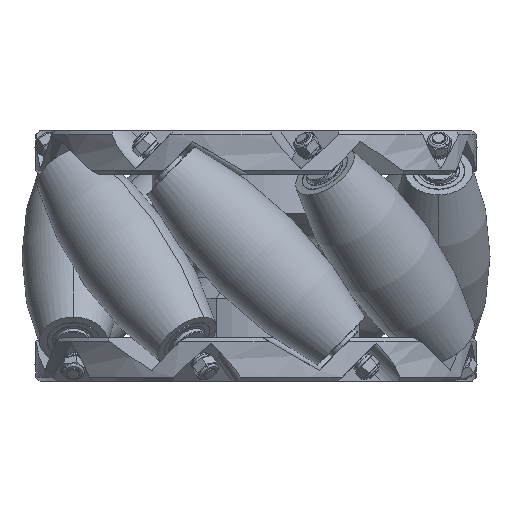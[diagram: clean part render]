
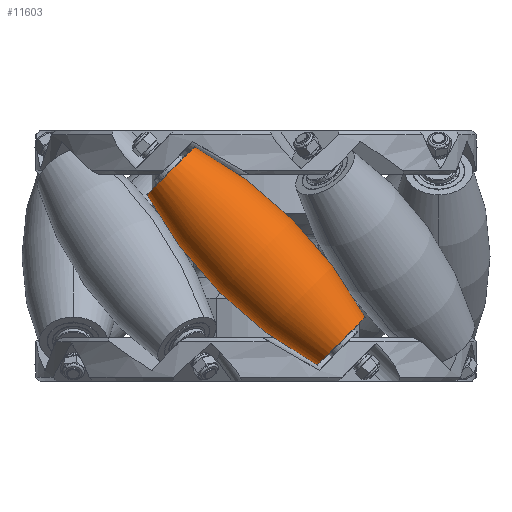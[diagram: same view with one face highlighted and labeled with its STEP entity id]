
A CAD part, front view. The second image highlights one B-rep face of the part: STEP entity #11603.
In plain terms, the highlighted toroidal (fillet/blend) face has major radius 282.974 mm and minor radius 322 mm.
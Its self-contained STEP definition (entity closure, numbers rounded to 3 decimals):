
#639 = EDGE_CURVE ( 'NONE', #2451, #6268, #7380, .T. ) ;
#796 = DIRECTION ( 'NONE',  ( -0.707, 0., 0.707 ) ) ;
#952 = FACE_OUTER_BOUND ( 'NONE', #15302, .T. ) ;
#1302 = TOROIDAL_SURFACE ( 'NONE', #10588, -282.974, 322. ) ;
#1392 = CIRCLE ( 'NONE', #13790, 322. ) ;
#2190 = DIRECTION ( 'NONE',  ( 0., -1., 0. ) ) ;
#2451 = VERTEX_POINT ( 'NONE', #15776 ) ;
#2942 = DIRECTION ( 'NONE',  ( -0.707, 0., -0.707 ) ) ;
#3290 = EDGE_CURVE ( 'NONE', #5763, #2451, #15752, .T. ) ;
#3345 = ORIENTED_EDGE ( 'NONE', *, *, #11933, .F. ) ;
#3370 = CARTESIAN_POINT ( 'NONE',  ( -64.7, 138.8, -64.7 ) ) ;
#3553 = AXIS2_PLACEMENT_3D ( 'NONE', #3370, #5950, #796 ) ;
#4520 = DIRECTION ( 'NONE',  ( 1., 0., 0. ) ) ;
#4862 = DIRECTION ( 'NONE',  ( -0.707, 0., -0.707 ) ) ;
#5440 = CARTESIAN_POINT ( 'NONE',  ( 64.7, 138.8, 64.7 ) ) ;
#5763 = VERTEX_POINT ( 'NONE', #14112 ) ;
#5950 = DIRECTION ( 'NONE',  ( -0.707, 0., -0.707 ) ) ;
#6268 = VERTEX_POINT ( 'NONE', #8196 ) ;
#6404 = CARTESIAN_POINT ( 'NONE',  ( -200.093, 138.8, 200.093 ) ) ;
#7258 = EDGE_CURVE ( 'NONE', #12483, #6268, #16284, .T. ) ;
#7380 = CIRCLE ( 'NONE', #11366, 322. ) ;
#8196 = CARTESIAN_POINT ( 'NONE',  ( -46.491, 138.8, -82.91 ) ) ;
#9927 = AXIS2_PLACEMENT_3D ( 'NONE', #5440, #2942, #11422 ) ;
#10588 = AXIS2_PLACEMENT_3D ( 'NONE', #11008, #4862, #13759 ) ;
#11008 = CARTESIAN_POINT ( 'NONE',  ( 0., 138.8, 0. ) ) ;
#11366 = AXIS2_PLACEMENT_3D ( 'NONE', #6404, #12796, #12968 ) ;
#11422 = DIRECTION ( 'NONE',  ( -0.707, 0., 0.707 ) ) ;
#11603 = ADVANCED_FACE ( 'NONE', ( #952 ), #1302, .T. ) ;
#11933 = EDGE_CURVE ( 'NONE', #5763, #12483, #1392, .T. ) ;
#12064 = ORIENTED_EDGE ( 'NONE', *, *, #639, .T. ) ;
#12129 = CARTESIAN_POINT ( 'NONE',  ( -82.91, 138.8, -46.491 ) ) ;
#12240 = CARTESIAN_POINT ( 'NONE',  ( 200.093, 138.8, -200.093 ) ) ;
#12483 = VERTEX_POINT ( 'NONE', #12129 ) ;
#12733 = ORIENTED_EDGE ( 'NONE', *, *, #3290, .T. ) ;
#12796 = DIRECTION ( 'NONE',  ( 0., 1., 0. ) ) ;
#12968 = DIRECTION ( 'NONE',  ( -1., 0., 0. ) ) ;
#13759 = DIRECTION ( 'NONE',  ( -0.707, 0., 0.707 ) ) ;
#13790 = AXIS2_PLACEMENT_3D ( 'NONE', #12240, #2190, #4520 ) ;
#14112 = CARTESIAN_POINT ( 'NONE',  ( 46.491, 138.8, 82.91 ) ) ;
#14492 = ORIENTED_EDGE ( 'NONE', *, *, #7258, .F. ) ;
#15302 = EDGE_LOOP ( 'NONE', ( #12733, #12064, #14492, #3345 ) ) ;
#15752 = CIRCLE ( 'NONE', #9927, 25.752 ) ;
#15776 = CARTESIAN_POINT ( 'NONE',  ( 82.91, 138.8, 46.491 ) ) ;
#16284 = CIRCLE ( 'NONE', #3553, 25.752 ) ;
